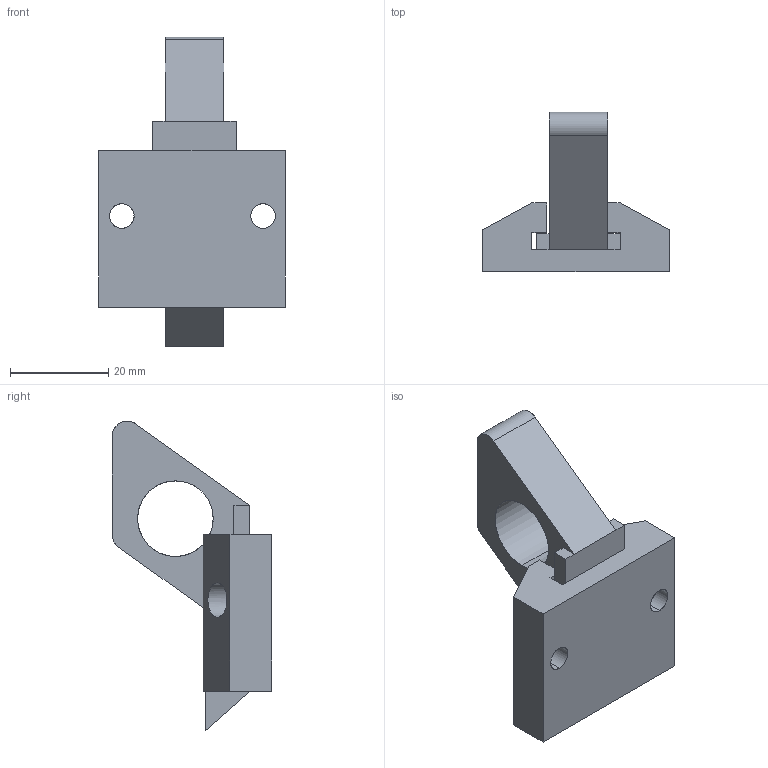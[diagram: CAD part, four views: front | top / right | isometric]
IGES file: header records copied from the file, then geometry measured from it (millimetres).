
Start section: SolidWorks IGES file using analytic representation for surfaces
Global section: file name: C:\Documents and Settings\ARGE\Desktop\yeni katalog tolgay düzenli\B kataloðu\sürgülü kilit\export\216 SKA 000.IGS; native system: SolidWorks 2006 by SolidWorks Corporation; preprocessor: SolidWorks 2006 by SolidWorks Corporation; author: ARGE2; date: 060912.103016; units: millimetre
Bounding box: 38 x 32.5 x 63.17 mm (x, y, z)
Surface area: 9377.5 mm2 (no closed solid volume)
Topology: 0 solids, 0 shells, 46 faces, 604 edges, 604 vertices
Faces by surface type: bspline 34, revolution 12
